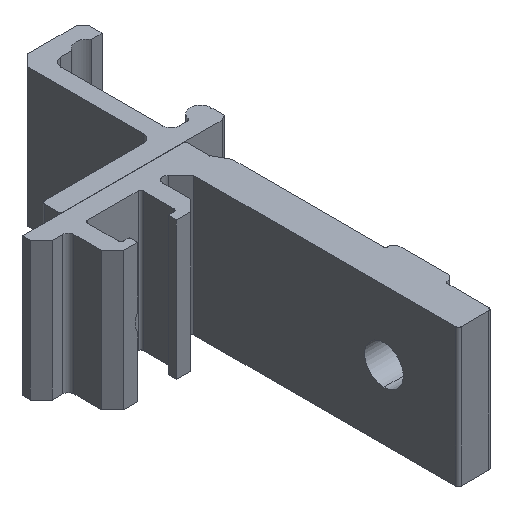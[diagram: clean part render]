
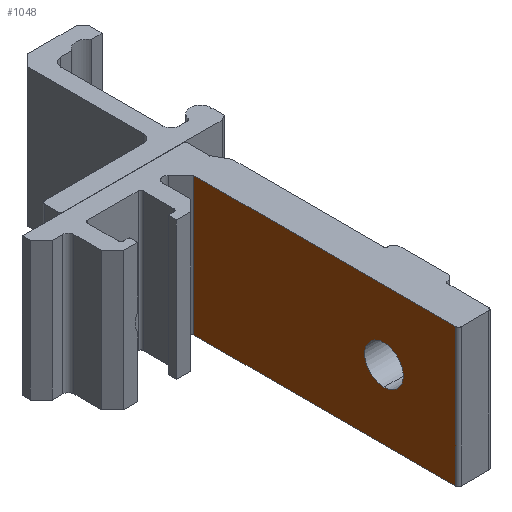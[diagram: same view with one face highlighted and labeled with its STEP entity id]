
A CAD part, isometric view. The second image highlights one B-rep face of the part: STEP entity #1048.
In plain terms, the highlighted planar face has unit normal (-1, 0, 0).
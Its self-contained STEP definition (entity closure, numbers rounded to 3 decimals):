
#4 = DIRECTION ( 'NONE',  ( 0., 0., -1. ) ) ;
#29 = CARTESIAN_POINT ( 'NONE',  ( -104.703, -44.765, 25. ) ) ;
#31 = DIRECTION ( 'NONE',  ( -1., 0., 0. ) ) ;
#53 = EDGE_CURVE ( 'NONE', #1599, #1531, #1217, .T. ) ;
#118 = CARTESIAN_POINT ( 'NONE',  ( -104.703, 2.637, 25. ) ) ;
#152 = FACE_OUTER_BOUND ( 'NONE', #1162, .T. ) ;
#201 = DIRECTION ( 'NONE',  ( 1., 0., 0. ) ) ;
#209 = CARTESIAN_POINT ( 'NONE',  ( -104.703, -44.765, 25. ) ) ;
#293 = ORIENTED_EDGE ( 'NONE', *, *, #2228, .T. ) ;
#350 = CARTESIAN_POINT ( 'NONE',  ( -104.703, -44.765, 0. ) ) ;
#442 = AXIS2_PLACEMENT_3D ( 'NONE', #1621, #31, #850 ) ;
#476 = VECTOR ( 'NONE', #1802, 1000. ) ;
#572 = CARTESIAN_POINT ( 'NONE',  ( -104.703, -44.765, 25. ) ) ;
#602 = LINE ( 'NONE', #2572, #2154 ) ;
#641 = LINE ( 'NONE', #572, #476 ) ;
#664 = DIRECTION ( 'NONE',  ( 0., -1., 0. ) ) ;
#673 = FACE_BOUND ( 'NONE', #2602, .T. ) ;
#724 = VERTEX_POINT ( 'NONE', #1116 ) ;
#850 = DIRECTION ( 'NONE',  ( 0., 0., 1. ) ) ;
#885 = EDGE_CURVE ( 'NONE', #1039, #2276, #641, .T. ) ;
#893 = VECTOR ( 'NONE', #2419, 1000. ) ;
#980 = CARTESIAN_POINT ( 'NONE',  ( -104.703, -31.765, 9. ) ) ;
#1039 = VERTEX_POINT ( 'NONE', #209 ) ;
#1048 = ADVANCED_FACE ( 'NONE', ( #673, #152 ), #1253, .F. ) ;
#1116 = CARTESIAN_POINT ( 'NONE',  ( -104.703, 2.637, 0. ) ) ;
#1137 = CARTESIAN_POINT ( 'NONE',  ( -104.703, -31.765, 12.5 ) ) ;
#1162 = EDGE_LOOP ( 'NONE', ( #2425, #1474, #1406, #293 ) ) ;
#1217 = CIRCLE ( 'NONE', #1728, 3.5 ) ;
#1253 = PLANE ( 'NONE',  #1782 ) ;
#1273 = CARTESIAN_POINT ( 'NONE',  ( -104.703, -44.765, 25. ) ) ;
#1406 = ORIENTED_EDGE ( 'NONE', *, *, #1984, .F. ) ;
#1423 = LINE ( 'NONE', #1618, #893 ) ;
#1474 = ORIENTED_EDGE ( 'NONE', *, *, #885, .F. ) ;
#1531 = VERTEX_POINT ( 'NONE', #980 ) ;
#1599 = VERTEX_POINT ( 'NONE', #2331 ) ;
#1618 = CARTESIAN_POINT ( 'NONE',  ( -104.703, -44.765, 0. ) ) ;
#1621 = CARTESIAN_POINT ( 'NONE',  ( -104.703, -31.765, 12.5 ) ) ;
#1728 = AXIS2_PLACEMENT_3D ( 'NONE', #1137, #2129, #1942 ) ;
#1737 = LINE ( 'NONE', #1273, #2585 ) ;
#1782 = AXIS2_PLACEMENT_3D ( 'NONE', #29, #201, #4 ) ;
#1802 = DIRECTION ( 'NONE',  ( 0., 0., -1. ) ) ;
#1879 = EDGE_CURVE ( 'NONE', #1531, #1599, #2120, .T. ) ;
#1942 = DIRECTION ( 'NONE',  ( 0., 0., 1. ) ) ;
#1984 = EDGE_CURVE ( 'NONE', #2581, #1039, #1737, .T. ) ;
#2120 = CIRCLE ( 'NONE', #442, 3.5 ) ;
#2129 = DIRECTION ( 'NONE',  ( -1., 0., 0. ) ) ;
#2154 = VECTOR ( 'NONE', #2390, 1000. ) ;
#2188 = ORIENTED_EDGE ( 'NONE', *, *, #53, .F. ) ;
#2228 = EDGE_CURVE ( 'NONE', #2581, #724, #602, .T. ) ;
#2276 = VERTEX_POINT ( 'NONE', #350 ) ;
#2331 = CARTESIAN_POINT ( 'NONE',  ( -104.703, -31.765, 16. ) ) ;
#2390 = DIRECTION ( 'NONE',  ( 0., 0., -1. ) ) ;
#2392 = EDGE_CURVE ( 'NONE', #724, #2276, #1423, .T. ) ;
#2419 = DIRECTION ( 'NONE',  ( 0., -1., 0. ) ) ;
#2425 = ORIENTED_EDGE ( 'NONE', *, *, #2392, .T. ) ;
#2572 = CARTESIAN_POINT ( 'NONE',  ( -104.703, 2.637, 25. ) ) ;
#2581 = VERTEX_POINT ( 'NONE', #118 ) ;
#2585 = VECTOR ( 'NONE', #664, 1000. ) ;
#2602 = EDGE_LOOP ( 'NONE', ( #2188, #2607 ) ) ;
#2607 = ORIENTED_EDGE ( 'NONE', *, *, #1879, .F. ) ;
